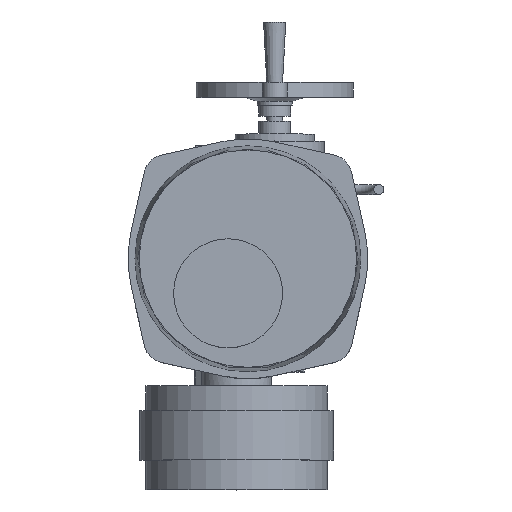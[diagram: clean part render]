
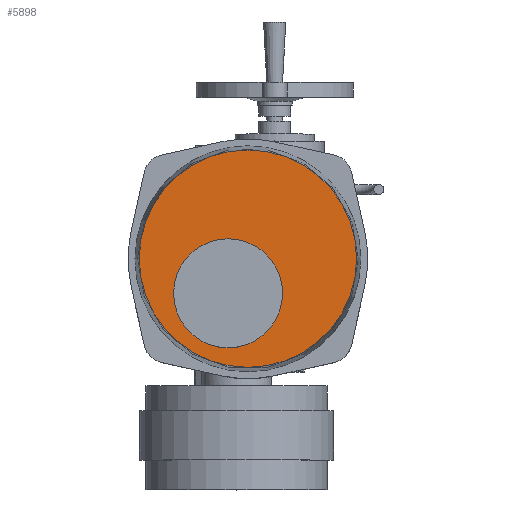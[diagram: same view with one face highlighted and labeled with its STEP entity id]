
A CAD part, top view. The second image highlights one B-rep face of the part: STEP entity #5898.
In plain terms, the highlighted planar face has unit normal (0, 0, 1).
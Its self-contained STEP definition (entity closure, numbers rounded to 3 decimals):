
#5898=ADVANCED_FACE('',(#12524,#12526),#12528,.T.);
#12524=FACE_BOUND('',#12525,.T.);
#12525=EDGE_LOOP('',(#17291));
#12526=FACE_BOUND('',#12527,.T.);
#12527=EDGE_LOOP('',(#17292));
#12528=PLANE('',#12529);
#12529=AXIS2_PLACEMENT_3D('',#12530,#12531,#12532);
#12530=CARTESIAN_POINT('',(20.,38.,554.));
#12531=DIRECTION('',(0.,0.,1.));
#12532=DIRECTION('',(-1.,0.,0.));
#17291=ORIENTED_EDGE('',*,*,#19698,.T.);
#17292=ORIENTED_EDGE('',*,*,#20765,.F.);
#19698=EDGE_CURVE('',#22824,#22824,#22825,.T.);
#20765=EDGE_CURVE('',#24422,#24422,#24423,.T.);
#22824=VERTEX_POINT('',#30110);
#22825=CIRCLE('',#30111,109.703);
#24422=VERTEX_POINT('',#34281);
#24423=CIRCLE('',#34282,55.);
#30110=CARTESIAN_POINT('',(-89.703,38.,554.));
#30111=AXIS2_PLACEMENT_3D('',#30112,#30113,#30114);
#30112=CARTESIAN_POINT('',(20.,38.,554.));
#30113=DIRECTION('',(0.,0.,1.));
#30114=DIRECTION('',(-1.,0.,0.));
#34281=CARTESIAN_POINT('',(-55.,3.,554.));
#34282=AXIS2_PLACEMENT_3D('',#34283,#34284,#34285);
#34283=CARTESIAN_POINT('',(0.,3.,554.));
#34284=DIRECTION('',(0.,0.,1.));
#34285=DIRECTION('',(-1.,0.,0.));
